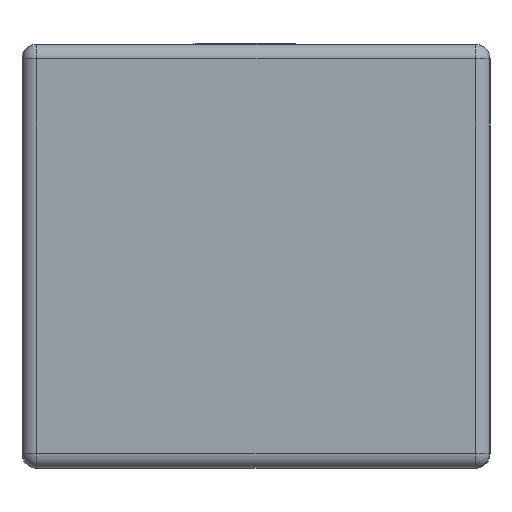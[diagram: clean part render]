
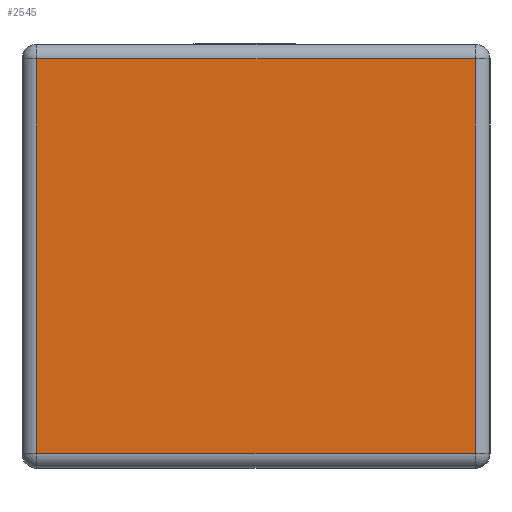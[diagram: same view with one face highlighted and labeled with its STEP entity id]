
A CAD part, left-side view. The second image highlights one B-rep face of the part: STEP entity #2545.
In plain terms, the highlighted planar face has unit normal (-1, 0, 0) as drawn and (1, 0, 0) by its records, which use the part's own axes.
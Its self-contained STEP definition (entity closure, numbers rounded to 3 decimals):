
#165=PLANE('',#2826);
#284=FACE_OUTER_BOUND('',#433,.T.);
#433=EDGE_LOOP('',(#1871,#1872,#1873,#1874));
#583=LINE('',#3582,#868);
#586=LINE('',#3604,#871);
#591=LINE('',#3614,#876);
#593=LINE('',#3617,#878);
#868=VECTOR('',#3003,10.);
#871=VECTOR('',#3028,10.);
#876=VECTOR('',#3039,10.);
#878=VECTOR('',#3043,10.);
#1178=VERTEX_POINT('',#3570);
#1181=VERTEX_POINT('',#3577);
#1183=VERTEX_POINT('',#3585);
#1187=VERTEX_POINT('',#3597);
#1433=EDGE_CURVE('',#1178,#1181,#583,.T.);
#1443=EDGE_CURVE('',#1187,#1183,#586,.T.);
#1449=EDGE_CURVE('',#1181,#1187,#591,.T.);
#1451=EDGE_CURVE('',#1183,#1178,#593,.T.);
#1871=ORIENTED_EDGE('',*,*,#1443,.F.);
#1872=ORIENTED_EDGE('',*,*,#1449,.F.);
#1873=ORIENTED_EDGE('',*,*,#1433,.F.);
#1874=ORIENTED_EDGE('',*,*,#1451,.F.);
#2545=ADVANCED_FACE('',(#284),#165,.T.);
#2826=AXIS2_PLACEMENT_3D('',#3634,#3062,#3063);
#3003=DIRECTION('',(0.,0.,1.));
#3028=DIRECTION('',(0.,0.,-1.));
#3039=DIRECTION('',(0.,1.,0.));
#3043=DIRECTION('',(0.,-1.,0.));
#3062=DIRECTION('center_axis',(1.,0.,0.));
#3063=DIRECTION('ref_axis',(0.,1.,0.));
#3570=CARTESIAN_POINT('',(0.3,-0.658,0.05));
#3577=CARTESIAN_POINT('',(0.3,-0.658,1.4));
#3582=CARTESIAN_POINT('',(0.3,-0.658,0.));
#3585=CARTESIAN_POINT('',(0.3,0.842,0.05));
#3597=CARTESIAN_POINT('',(0.3,0.842,1.4));
#3604=CARTESIAN_POINT('',(0.3,0.842,0.));
#3614=CARTESIAN_POINT('',(0.3,-0.308,1.4));
#3617=CARTESIAN_POINT('',(0.3,-0.308,0.05));
#3634=CARTESIAN_POINT('Origin',(0.3,-0.708,0.));
